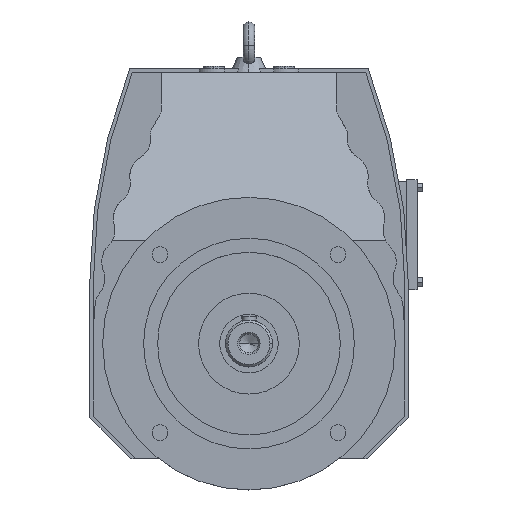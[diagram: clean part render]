
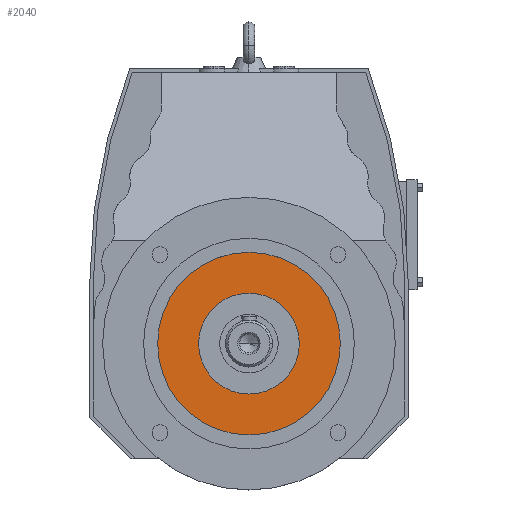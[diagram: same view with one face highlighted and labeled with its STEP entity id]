
A CAD part, top view. The second image highlights one B-rep face of the part: STEP entity #2040.
In plain terms, the highlighted planar face has unit normal (0, 0, 1).
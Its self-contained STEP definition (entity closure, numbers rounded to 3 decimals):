
#1548 = CYLINDRICAL_SURFACE('',#1549,78.);
#1549 = AXIS2_PLACEMENT_3D('',#1550,#1551,#1552);
#1550 = CARTESIAN_POINT('',(0.,-93.5,269.));
#1551 = DIRECTION('',(0.,0.,1.));
#1552 = DIRECTION('',(0.,-1.,0.));
#1578 = CYLINDRICAL_SURFACE('',#1579,78.);
#1579 = AXIS2_PLACEMENT_3D('',#1580,#1581,#1582);
#1580 = CARTESIAN_POINT('',(0.,-93.5,269.));
#1581 = DIRECTION('',(0.,0.,1.));
#1582 = DIRECTION('',(0.,-1.,0.));
#1793 = VERTEX_POINT('',#1794);
#1794 = CARTESIAN_POINT('',(0.,-15.5,181.));
#1815 = VERTEX_POINT('',#1816);
#1816 = CARTESIAN_POINT('',(0.,-171.5,181.));
#1835 = EDGE_CURVE('',#1815,#1793,#1836,.T.);
#1836 = SURFACE_CURVE('',#1837,(#1842,#1848),.PCURVE_S1.);
#1837 = CIRCLE('',#1838,78.);
#1838 = AXIS2_PLACEMENT_3D('',#1839,#1840,#1841);
#1839 = CARTESIAN_POINT('',(0.,-93.5,181.));
#1840 = DIRECTION('',(0.,0.,1.));
#1841 = DIRECTION('',(0.,-1.,0.));
#1842 = PCURVE('',#1548,#1843);
#1843 = DEFINITIONAL_REPRESENTATION('',(#1844),#1847);
#1844 = B_SPLINE_CURVE_WITH_KNOTS('',1,(#1845,#1846),.UNSPECIFIED.,.F.,
  .F.,(2,2),(0.,3.142),.PIECEWISE_BEZIER_KNOTS.);
#1845 = CARTESIAN_POINT('',(0.,-88.));
#1846 = CARTESIAN_POINT('',(3.142,-88.));
#1847 = ( GEOMETRIC_REPRESENTATION_CONTEXT(2) 
PARAMETRIC_REPRESENTATION_CONTEXT() REPRESENTATION_CONTEXT('2D SPACE',''
  ) );
#1848 = PCURVE('',#1849,#1854);
#1849 = PLANE('',#1850);
#1850 = AXIS2_PLACEMENT_3D('',#1851,#1852,#1853);
#1851 = CARTESIAN_POINT('',(0.,-50.446,181.));
#1852 = DIRECTION('',(0.,0.,-1.));
#1853 = DIRECTION('',(-1.,0.,0.));
#1854 = DEFINITIONAL_REPRESENTATION('',(#1855),#1863);
#1855 = ( BOUNDED_CURVE() B_SPLINE_CURVE(2,(#1856,#1857,#1858,#1859,
#1860,#1861,#1862),.UNSPECIFIED.,.T.,.F.) B_SPLINE_CURVE_WITH_KNOTS((1,2
    ,2,2,2,1),(-2.094,0.,2.094,4.189,
6.283,8.378),.UNSPECIFIED.) CURVE() 
GEOMETRIC_REPRESENTATION_ITEM() RATIONAL_B_SPLINE_CURVE((1.,0.5,1.,0.5,
1.,0.5,1.)) REPRESENTATION_ITEM('') );
#1856 = CARTESIAN_POINT('',(0.,-121.054));
#1857 = CARTESIAN_POINT('',(-135.1,-121.054));
#1858 = CARTESIAN_POINT('',(-67.55,-4.054));
#1859 = CARTESIAN_POINT('',(0.,112.946));
#1860 = CARTESIAN_POINT('',(67.55,-4.054));
#1861 = CARTESIAN_POINT('',(135.1,-121.054));
#1862 = CARTESIAN_POINT('',(0.,-121.054));
#1863 = ( GEOMETRIC_REPRESENTATION_CONTEXT(2) 
PARAMETRIC_REPRESENTATION_CONTEXT() REPRESENTATION_CONTEXT('2D SPACE',''
  ) );
#1868 = EDGE_CURVE('',#1793,#1815,#1869,.T.);
#1869 = SURFACE_CURVE('',#1870,(#1875,#1881),.PCURVE_S1.);
#1870 = CIRCLE('',#1871,78.);
#1871 = AXIS2_PLACEMENT_3D('',#1872,#1873,#1874);
#1872 = CARTESIAN_POINT('',(0.,-93.5,181.));
#1873 = DIRECTION('',(0.,0.,1.));
#1874 = DIRECTION('',(0.,-1.,0.));
#1875 = PCURVE('',#1578,#1876);
#1876 = DEFINITIONAL_REPRESENTATION('',(#1877),#1880);
#1877 = B_SPLINE_CURVE_WITH_KNOTS('',1,(#1878,#1879),.UNSPECIFIED.,.F.,
  .F.,(2,2),(3.142,6.283),.PIECEWISE_BEZIER_KNOTS.);
#1878 = CARTESIAN_POINT('',(3.142,-88.));
#1879 = CARTESIAN_POINT('',(6.283,-88.));
#1880 = ( GEOMETRIC_REPRESENTATION_CONTEXT(2) 
PARAMETRIC_REPRESENTATION_CONTEXT() REPRESENTATION_CONTEXT('2D SPACE',''
  ) );
#1881 = PCURVE('',#1849,#1882);
#1882 = DEFINITIONAL_REPRESENTATION('',(#1883),#1891);
#1883 = ( BOUNDED_CURVE() B_SPLINE_CURVE(2,(#1884,#1885,#1886,#1887,
#1888,#1889,#1890),.UNSPECIFIED.,.T.,.F.) B_SPLINE_CURVE_WITH_KNOTS((1,2
    ,2,2,2,1),(-2.094,0.,2.094,4.189,
6.283,8.378),.UNSPECIFIED.) CURVE() 
GEOMETRIC_REPRESENTATION_ITEM() RATIONAL_B_SPLINE_CURVE((1.,0.5,1.,0.5,
1.,0.5,1.)) REPRESENTATION_ITEM('') );
#1884 = CARTESIAN_POINT('',(0.,-121.054));
#1885 = CARTESIAN_POINT('',(-135.1,-121.054));
#1886 = CARTESIAN_POINT('',(-67.55,-4.054));
#1887 = CARTESIAN_POINT('',(0.,112.946));
#1888 = CARTESIAN_POINT('',(67.55,-4.054));
#1889 = CARTESIAN_POINT('',(135.1,-121.054));
#1890 = CARTESIAN_POINT('',(0.,-121.054));
#1891 = ( GEOMETRIC_REPRESENTATION_CONTEXT(2) 
PARAMETRIC_REPRESENTATION_CONTEXT() REPRESENTATION_CONTEXT('2D SPACE',''
  ) );
#2040 = ADVANCED_FACE('',(#2041,#2107),#1849,.F.);
#2041 = FACE_BOUND('',#2042,.T.);
#2042 = EDGE_LOOP('',(#2043,#2077));
#2043 = ORIENTED_EDGE('',*,*,#2044,.F.);
#2044 = EDGE_CURVE('',#2045,#2047,#2049,.T.);
#2045 = VERTEX_POINT('',#2046);
#2046 = CARTESIAN_POINT('',(43.054,-93.5,181.));
#2047 = VERTEX_POINT('',#2048);
#2048 = CARTESIAN_POINT('',(-43.054,-93.5,181.));
#2049 = SURFACE_CURVE('',#2050,(#2055,#2066),.PCURVE_S1.);
#2050 = CIRCLE('',#2051,43.054);
#2051 = AXIS2_PLACEMENT_3D('',#2052,#2053,#2054);
#2052 = CARTESIAN_POINT('',(0.,-93.5,181.));
#2053 = DIRECTION('',(0.,0.,1.));
#2054 = DIRECTION('',(1.,0.,0.));
#2055 = PCURVE('',#1849,#2056);
#2056 = DEFINITIONAL_REPRESENTATION('',(#2057),#2065);
#2057 = ( BOUNDED_CURVE() B_SPLINE_CURVE(2,(#2058,#2059,#2060,#2061,
#2062,#2063,#2064),.UNSPECIFIED.,.F.,.F.) B_SPLINE_CURVE_WITH_KNOTS((1,2
    ,2,2,2,1),(-2.094,0.,2.094,4.189,
6.283,8.378),.UNSPECIFIED.) CURVE() 
GEOMETRIC_REPRESENTATION_ITEM() RATIONAL_B_SPLINE_CURVE((1.,0.5,1.,0.5,
1.,0.5,1.)) REPRESENTATION_ITEM('') );
#2058 = CARTESIAN_POINT('',(-43.054,-43.054));
#2059 = CARTESIAN_POINT('',(-43.054,31.518));
#2060 = CARTESIAN_POINT('',(21.527,-5.768));
#2061 = CARTESIAN_POINT('',(86.108,-43.054));
#2062 = CARTESIAN_POINT('',(21.527,-80.34));
#2063 = CARTESIAN_POINT('',(-43.054,-117.625));
#2064 = CARTESIAN_POINT('',(-43.054,-43.054));
#2065 = ( GEOMETRIC_REPRESENTATION_CONTEXT(2) 
PARAMETRIC_REPRESENTATION_CONTEXT() REPRESENTATION_CONTEXT('2D SPACE',''
  ) );
#2066 = PCURVE('',#2067,#2072);
#2067 = CYLINDRICAL_SURFACE('',#2068,43.054);
#2068 = AXIS2_PLACEMENT_3D('',#2069,#2070,#2071);
#2069 = CARTESIAN_POINT('',(0.,-93.5,269.));
#2070 = DIRECTION('',(0.,0.,1.));
#2071 = DIRECTION('',(1.,0.,0.));
#2072 = DEFINITIONAL_REPRESENTATION('',(#2073),#2076);
#2073 = B_SPLINE_CURVE_WITH_KNOTS('',1,(#2074,#2075),.UNSPECIFIED.,.F.,
  .F.,(2,2),(0.,3.142),.PIECEWISE_BEZIER_KNOTS.);
#2074 = CARTESIAN_POINT('',(0.,-88.));
#2075 = CARTESIAN_POINT('',(3.142,-88.));
#2076 = ( GEOMETRIC_REPRESENTATION_CONTEXT(2) 
PARAMETRIC_REPRESENTATION_CONTEXT() REPRESENTATION_CONTEXT('2D SPACE',''
  ) );
#2077 = ORIENTED_EDGE('',*,*,#2078,.F.);
#2078 = EDGE_CURVE('',#2047,#2045,#2079,.T.);
#2079 = SURFACE_CURVE('',#2080,(#2085,#2096),.PCURVE_S1.);
#2080 = CIRCLE('',#2081,43.054);
#2081 = AXIS2_PLACEMENT_3D('',#2082,#2083,#2084);
#2082 = CARTESIAN_POINT('',(0.,-93.5,181.));
#2083 = DIRECTION('',(0.,0.,1.));
#2084 = DIRECTION('',(1.,0.,0.));
#2085 = PCURVE('',#1849,#2086);
#2086 = DEFINITIONAL_REPRESENTATION('',(#2087),#2095);
#2087 = ( BOUNDED_CURVE() B_SPLINE_CURVE(2,(#2088,#2089,#2090,#2091,
#2092,#2093,#2094),.UNSPECIFIED.,.F.,.F.) B_SPLINE_CURVE_WITH_KNOTS((1,2
    ,2,2,2,1),(-2.094,0.,2.094,4.189,
6.283,8.378),.UNSPECIFIED.) CURVE() 
GEOMETRIC_REPRESENTATION_ITEM() RATIONAL_B_SPLINE_CURVE((1.,0.5,1.,0.5,
1.,0.5,1.)) REPRESENTATION_ITEM('') );
#2088 = CARTESIAN_POINT('',(-43.054,-43.054));
#2089 = CARTESIAN_POINT('',(-43.054,31.518));
#2090 = CARTESIAN_POINT('',(21.527,-5.768));
#2091 = CARTESIAN_POINT('',(86.108,-43.054));
#2092 = CARTESIAN_POINT('',(21.527,-80.34));
#2093 = CARTESIAN_POINT('',(-43.054,-117.625));
#2094 = CARTESIAN_POINT('',(-43.054,-43.054));
#2095 = ( GEOMETRIC_REPRESENTATION_CONTEXT(2) 
PARAMETRIC_REPRESENTATION_CONTEXT() REPRESENTATION_CONTEXT('2D SPACE',''
  ) );
#2096 = PCURVE('',#2097,#2102);
#2097 = CYLINDRICAL_SURFACE('',#2098,43.054);
#2098 = AXIS2_PLACEMENT_3D('',#2099,#2100,#2101);
#2099 = CARTESIAN_POINT('',(0.,-93.5,269.));
#2100 = DIRECTION('',(0.,0.,1.));
#2101 = DIRECTION('',(1.,0.,0.));
#2102 = DEFINITIONAL_REPRESENTATION('',(#2103),#2106);
#2103 = B_SPLINE_CURVE_WITH_KNOTS('',1,(#2104,#2105),.UNSPECIFIED.,.F.,
  .F.,(2,2),(3.142,6.283),.PIECEWISE_BEZIER_KNOTS.);
#2104 = CARTESIAN_POINT('',(3.142,-88.));
#2105 = CARTESIAN_POINT('',(6.283,-88.));
#2106 = ( GEOMETRIC_REPRESENTATION_CONTEXT(2) 
PARAMETRIC_REPRESENTATION_CONTEXT() REPRESENTATION_CONTEXT('2D SPACE',''
  ) );
#2107 = FACE_BOUND('',#2108,.T.);
#2108 = EDGE_LOOP('',(#2109,#2110));
#2109 = ORIENTED_EDGE('',*,*,#1835,.T.);
#2110 = ORIENTED_EDGE('',*,*,#1868,.T.);
